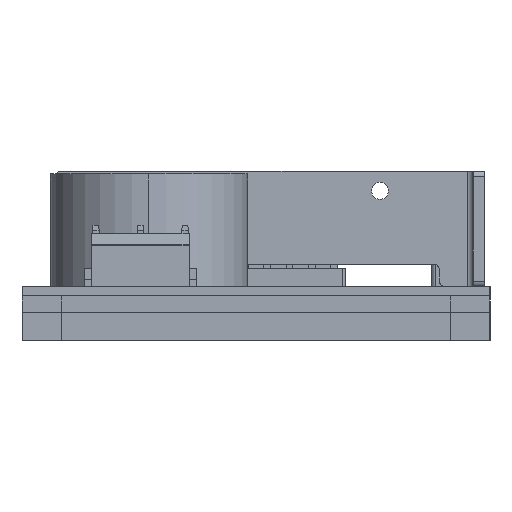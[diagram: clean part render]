
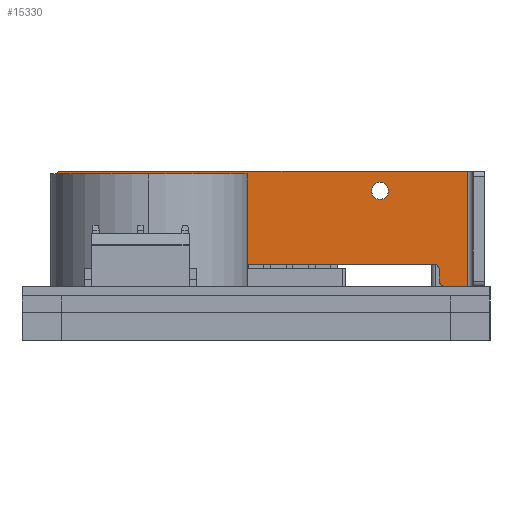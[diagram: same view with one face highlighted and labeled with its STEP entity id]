
A CAD part, left-side view. The second image highlights one B-rep face of the part: STEP entity #15330.
In plain terms, the highlighted planar face has unit normal (-1, 0, 0).
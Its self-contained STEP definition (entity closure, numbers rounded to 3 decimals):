
#1780=CARTESIAN_POINT('',(80.95,76.,0.));
#1790=VERTEX_POINT('',#1780);
#1820=CARTESIAN_POINT('',(80.95,0.,0.));
#1830=DIRECTION('',(0.,1.,0.));
#1840=VECTOR('',#1830,1.);
#1850=LINE('',#1820,#1840);
#1860=CARTESIAN_POINT('',(80.95,75.,0.));
#1870=VERTEX_POINT('',#1860);
#1880=EDGE_CURVE('',#1870,#1790,#1850,.T.);
#2130=CARTESIAN_POINT('',(80.95,4.,0.));
#2140=VERTEX_POINT('',#2130);
#2500=CARTESIAN_POINT('',(80.95,8.,0.));
#2510=VERTEX_POINT('',#2500);
#2540=EDGE_CURVE('',#2140,#2510,#1850,.T.);
#12230=CARTESIAN_POINT('',(80.95,9.,1.));
#12240=VERTEX_POINT('',#12230);
#12270=CARTESIAN_POINT('',(80.95,8.,1.));
#12280=DIRECTION('',(1.,0.,0.));
#12290=DIRECTION('',(0.,-1.,0.));
#12300=AXIS2_PLACEMENT_3D('',#12270,#12280,#12290);
#12310=CIRCLE('',#12300,1.);
#12320=EDGE_CURVE('',#2510,#12240,#12310,.T.);
#13840=CARTESIAN_POINT('',(80.95,61.5,17.));
#13850=VERTEX_POINT('',#13840);
#13930=CARTESIAN_POINT('',(80.95,58.5,17.));
#13940=VERTEX_POINT('',#13930);
#13970=CARTESIAN_POINT('',(80.95,60.,17.));
#13980=DIRECTION('',(1.,0.,0.));
#13990=DIRECTION('',(0.,1.,0.));
#14000=AXIS2_PLACEMENT_3D('',#13970,#13980,#13990);
#14010=CIRCLE('',#14000,1.5);
#14020=EDGE_CURVE('',#13940,#13850,#14010,.T.);
#14140=CARTESIAN_POINT('',(80.95,97.28,-2.05));
#14150=DIRECTION('',(1.,0.,0.));
#14160=DIRECTION('',(0.,-1.,0.));
#14170=AXIS2_PLACEMENT_3D('',#14140,#14150,#14160);
#14180=PLANE('',#14170);
#14190=CARTESIAN_POINT('',(80.95,76.,19.5));
#14200=DIRECTION('',(-1.,0.,0.));
#14210=DIRECTION('',(0.,1.,0.));
#14220=AXIS2_PLACEMENT_3D('',#14190,#14200,#14210);
#14230=CIRCLE('',#14220,1.);
#14240=CARTESIAN_POINT('',(80.95,76.,20.5));
#14250=VERTEX_POINT('',#14240);
#14260=CARTESIAN_POINT('',(80.95,77.,19.5));
#14270=VERTEX_POINT('',#14260);
#14280=EDGE_CURVE('',#14250,#14270,#14230,.T.);
#14290=ORIENTED_EDGE('',*,*,#14280,.T.);
#14300=CARTESIAN_POINT('',(80.95,-0.002,20.5));
#14310=DIRECTION('',(0.,-1.,0.));
#14320=VECTOR('',#14310,1.);
#14330=LINE('',#14300,#14320);
#14340=CARTESIAN_POINT('',(80.95,4.,20.5));
#14350=VERTEX_POINT('',#14340);
#14360=EDGE_CURVE('',#14250,#14350,#14330,.T.);
#14370=ORIENTED_EDGE('',*,*,#14360,.F.);
#14380=CARTESIAN_POINT('',(80.95,4.,0.));
#14390=DIRECTION('',(0.,0.,1.));
#14400=VECTOR('',#14390,1.);
#14410=LINE('',#14380,#14400);
#14420=EDGE_CURVE('',#2140,#14350,#14410,.T.);
#14430=ORIENTED_EDGE('',*,*,#14420,.T.);
#14440=ORIENTED_EDGE('',*,*,#2540,.F.);
#14450=ORIENTED_EDGE('',*,*,#12320,.F.);
#14460=CARTESIAN_POINT('',(80.95,9.,0.));
#14470=DIRECTION('',(0.,0.,-1.));
#14480=VECTOR('',#14470,1.);
#14490=LINE('',#14460,#14480);
#14500=CARTESIAN_POINT('',(80.95,9.,3.));
#14510=VERTEX_POINT('',#14500);
#14520=EDGE_CURVE('',#14510,#12240,#14490,.T.);
#14530=ORIENTED_EDGE('',*,*,#14520,.T.);
#14540=CARTESIAN_POINT('',(80.95,10.,3.));
#14550=DIRECTION('',(1.,0.,0.));
#14560=DIRECTION('',(0.,-1.,0.));
#14570=AXIS2_PLACEMENT_3D('',#14540,#14550,#14560);
#14580=CIRCLE('',#14570,1.);
#14590=CARTESIAN_POINT('',(80.95,10.,4.));
#14600=VERTEX_POINT('',#14590);
#14610=EDGE_CURVE('',#14600,#14510,#14580,.T.);
#14620=ORIENTED_EDGE('',*,*,#14610,.T.);
#14630=CARTESIAN_POINT('',(80.95,-0.002,4.));
#14640=DIRECTION('',(0.,-1.,0.));
#14650=VECTOR('',#14640,1.);
#14660=LINE('',#14630,#14650);
#14670=CARTESIAN_POINT('',(80.95,73.,4.));
#14680=VERTEX_POINT('',#14670);
#14690=EDGE_CURVE('',#14680,#14600,#14660,.T.);
#14700=ORIENTED_EDGE('',*,*,#14690,.T.);
#14710=CARTESIAN_POINT('',(80.95,73.,3.));
#14720=DIRECTION('',(1.,0.,0.));
#14730=DIRECTION('',(0.,-1.,0.));
#14740=AXIS2_PLACEMENT_3D('',#14710,#14720,#14730);
#14750=CIRCLE('',#14740,1.);
#14760=CARTESIAN_POINT('',(80.95,74.,3.));
#14770=VERTEX_POINT('',#14760);
#14780=EDGE_CURVE('',#14770,#14680,#14750,.T.);
#14790=ORIENTED_EDGE('',*,*,#14780,.T.);
#14800=CARTESIAN_POINT('',(80.95,74.,0.));
#14810=DIRECTION('',(0.,0.,1.));
#14820=VECTOR('',#14810,1.);
#14830=LINE('',#14800,#14820);
#14840=CARTESIAN_POINT('',(80.95,74.,1.));
#14850=VERTEX_POINT('',#14840);
#14860=EDGE_CURVE('',#14850,#14770,#14830,.T.);
#14870=ORIENTED_EDGE('',*,*,#14860,.T.);
#14880=CARTESIAN_POINT('',(80.95,75.,1.));
#14890=DIRECTION('',(-1.,0.,0.));
#14900=DIRECTION('',(0.,1.,0.));
#14910=AXIS2_PLACEMENT_3D('',#14880,#14890,#14900);
#14920=CIRCLE('',#14910,1.);
#14930=EDGE_CURVE('',#1870,#14850,#14920,.T.);
#14940=ORIENTED_EDGE('',*,*,#14930,.T.);
#14950=ORIENTED_EDGE('',*,*,#1880,.F.);
#14960=CARTESIAN_POINT('',(80.95,76.,1.));
#14970=DIRECTION('',(-1.,0.,0.));
#14980=DIRECTION('',(0.,1.,0.));
#14990=AXIS2_PLACEMENT_3D('',#14960,#14970,#14980);
#15000=CIRCLE('',#14990,1.);
#15010=CARTESIAN_POINT('',(80.95,77.,1.));
#15020=VERTEX_POINT('',#15010);
#15030=EDGE_CURVE('',#15020,#1790,#15000,.T.);
#15040=ORIENTED_EDGE('',*,*,#15030,.T.);
#15050=CARTESIAN_POINT('',(80.95,77.,0.));
#15060=DIRECTION('',(0.,0.,1.));
#15070=VECTOR('',#15060,1.);
#15080=LINE('',#15050,#15070);
#15090=EDGE_CURVE('',#15020,#14270,#15080,.T.);
#15100=ORIENTED_EDGE('',*,*,#15090,.F.);
#15110=EDGE_LOOP('',(#15100,#15040,#14950,#14940,#14870,#14790,#14700,
#14620,#14530,#14450,#14440,#14430,#14370,#14290));
#15120=FACE_OUTER_BOUND('',#15110,.T.);
#15130=EDGE_CURVE('',#13850,#13940,#14010,.T.);
#15140=ORIENTED_EDGE('',*,*,#15130,.T.);
#15150=ORIENTED_EDGE('',*,*,#14020,.T.);
#15160=EDGE_LOOP('',(#15150,#15140));
#15170=FACE_BOUND('',#15160,.T.);
#15180=CARTESIAN_POINT('',(80.95,19.5,17.));
#15190=DIRECTION('',(1.,0.,0.));
#15200=DIRECTION('',(0.,1.,0.));
#15210=AXIS2_PLACEMENT_3D('',#15180,#15190,#15200);
#15220=CIRCLE('',#15210,1.5);
#15230=CARTESIAN_POINT('',(80.95,21.,17.));
#15240=VERTEX_POINT('',#15230);
#15250=CARTESIAN_POINT('',(80.95,18.,17.));
#15260=VERTEX_POINT('',#15250);
#15270=EDGE_CURVE('',#15240,#15260,#15220,.T.);
#15280=ORIENTED_EDGE('',*,*,#15270,.T.);
#15290=EDGE_CURVE('',#15260,#15240,#15220,.T.);
#15300=ORIENTED_EDGE('',*,*,#15290,.T.);
#15310=EDGE_LOOP('',(#15300,#15280));
#15320=FACE_BOUND('',#15310,.T.);
#15330=ADVANCED_FACE('',(#15120,#15170,#15320),#14180,.F.);
